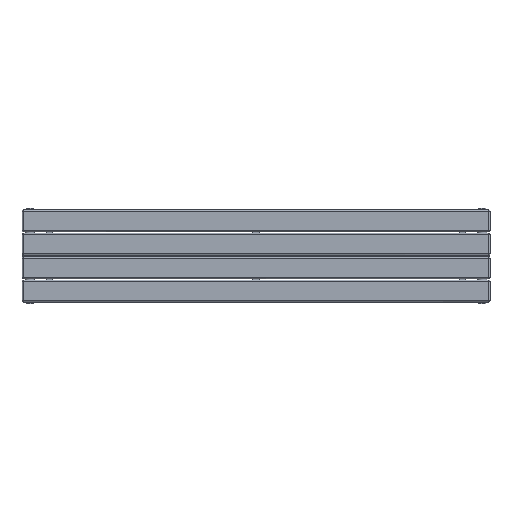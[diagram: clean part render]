
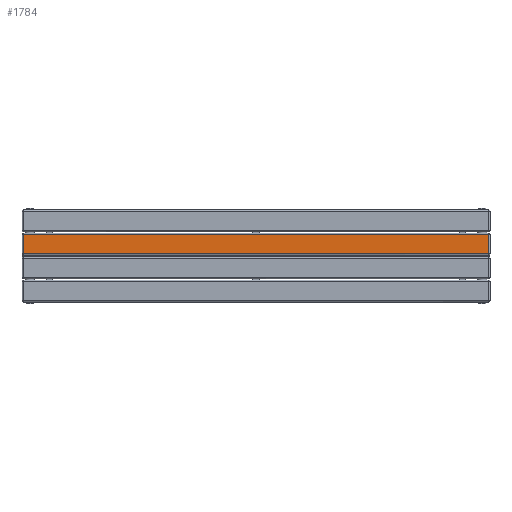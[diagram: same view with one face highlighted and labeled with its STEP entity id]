
A CAD part, top view. The second image highlights one B-rep face of the part: STEP entity #1784.
In plain terms, the highlighted planar face has unit normal (0, 0, 1) as drawn and (0, -1, 0) by its records, which use the part's own axes.
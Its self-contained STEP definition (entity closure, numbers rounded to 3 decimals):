
#210=LINE('',#3096,#335);
#211=LINE('',#3098,#336);
#212=LINE('',#3100,#337);
#213=LINE('',#3101,#338);
#335=VECTOR('',#2253,10.);
#336=VECTOR('',#2254,10.);
#337=VECTOR('',#2255,10.);
#338=VECTOR('',#2256,10.);
#470=PLANE('',#1972);
#653=FACE_OUTER_BOUND('',#780,.T.);
#780=EDGE_LOOP('',(#1350,#1351,#1352,#1353));
#926=VERTEX_POINT('',#3094);
#927=VERTEX_POINT('',#3095);
#928=VERTEX_POINT('',#3097);
#929=VERTEX_POINT('',#3099);
#1085=EDGE_CURVE('',#926,#927,#210,.T.);
#1086=EDGE_CURVE('',#928,#926,#211,.T.);
#1087=EDGE_CURVE('',#929,#928,#212,.T.);
#1088=EDGE_CURVE('',#927,#929,#213,.T.);
#1350=ORIENTED_EDGE('',*,*,#1085,.F.);
#1351=ORIENTED_EDGE('',*,*,#1086,.F.);
#1352=ORIENTED_EDGE('',*,*,#1087,.F.);
#1353=ORIENTED_EDGE('',*,*,#1088,.F.);
#1784=ADVANCED_FACE('',(#653),#470,.T.);
#1972=AXIS2_PLACEMENT_3D('',#3093,#2251,#2252);
#2251=DIRECTION('center_axis',(0.,-1.,0.));
#2252=DIRECTION('ref_axis',(1.,0.,0.));
#2253=DIRECTION('',(-1.,0.,0.));
#2254=DIRECTION('',(0.,0.,-1.));
#2255=DIRECTION('',(1.,0.,0.));
#2256=DIRECTION('',(0.,0.,1.));
#3093=CARTESIAN_POINT('Origin',(-31.,-8.,0.));
#3094=CARTESIAN_POINT('',(31.,-8.,-746.));
#3095=CARTESIAN_POINT('',(-31.,-8.,-746.));
#3096=CARTESIAN_POINT('',(-15.5,-8.,-746.));
#3097=CARTESIAN_POINT('',(31.,-8.,746.));
#3098=CARTESIAN_POINT('',(31.,-8.,0.));
#3099=CARTESIAN_POINT('',(-31.,-8.,746.));
#3100=CARTESIAN_POINT('',(-15.5,-8.,746.));
#3101=CARTESIAN_POINT('',(-31.,-8.,0.));
